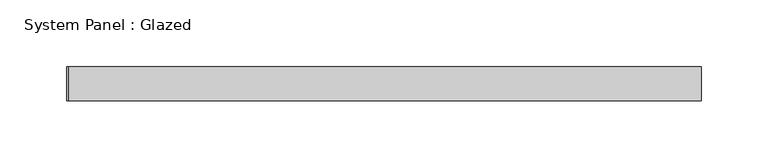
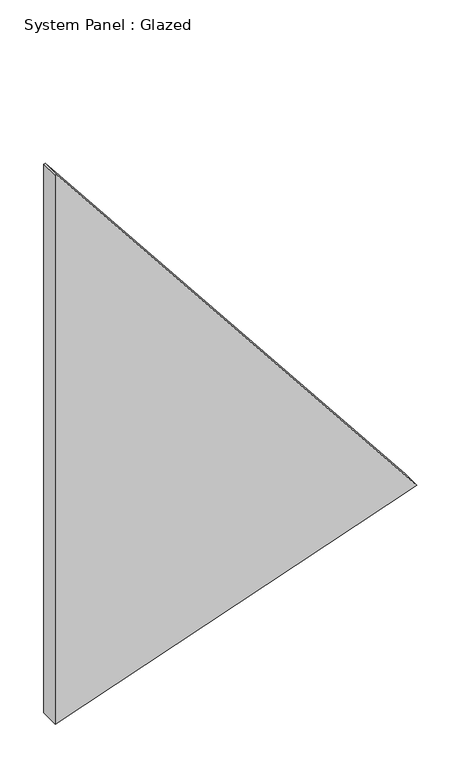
"""IFC4 building model written with IfcOpenShell, lengths in millimetres: plate geometry, System Panel : Glazed."""

from ifc_helpers import new_model, si_unit, frame, origin, place, context, project, spatial, polyline, outline, extrude, source, transform, mapped, element, save


def system_panel_glazed_07cf543c(model_context):
    return source(origin(), model_context, "Body", "SweptSolid", [
        extrude(outline(polyline([(0.0, -237.6758315), (165.5137224, 237.6820289), (763.3943351, -236.0989329), (762.8431207, -237.6820289), (0.0, -237.6758315)])), frame((0.0, -44.45, 0.0), z_axis=(0.0, 1.0, 0.0), x_axis=(0.0, 0.0, 1.0)), (0.0, 0.0, 1.0), 25.4),
    ])


if __name__ == "__main__":
    model = new_model("IFC4")
    model_context = context("Model", 3, world=origin())
    ifc_project = project(units=[si_unit("LENGTHUNIT", "METRE", prefix="MILLI")], contexts=[model_context])
    site = spatial("IfcSite", under=ifc_project)
    building = spatial("IfcBuilding", under=site)
    placement = place(None, origin())
    system_panel_glazed_shape = system_panel_glazed_07cf543c(model_context)
    element("IfcPlate", 1, ObjectType="System Panel : Glazed", at=placement, inside=building, context=model_context, shape_type="MappedRepresentation", body=[
        mapped(system_panel_glazed_shape, transform((0.0, 0.0, 0.0), x_axis=(1.0, 0.0, 0.0), y_axis=(0.0, 1.0, 0.0), z_axis=(0.0, 0.0, 1.0))),
    ])
    save(model, "model.ifc")
